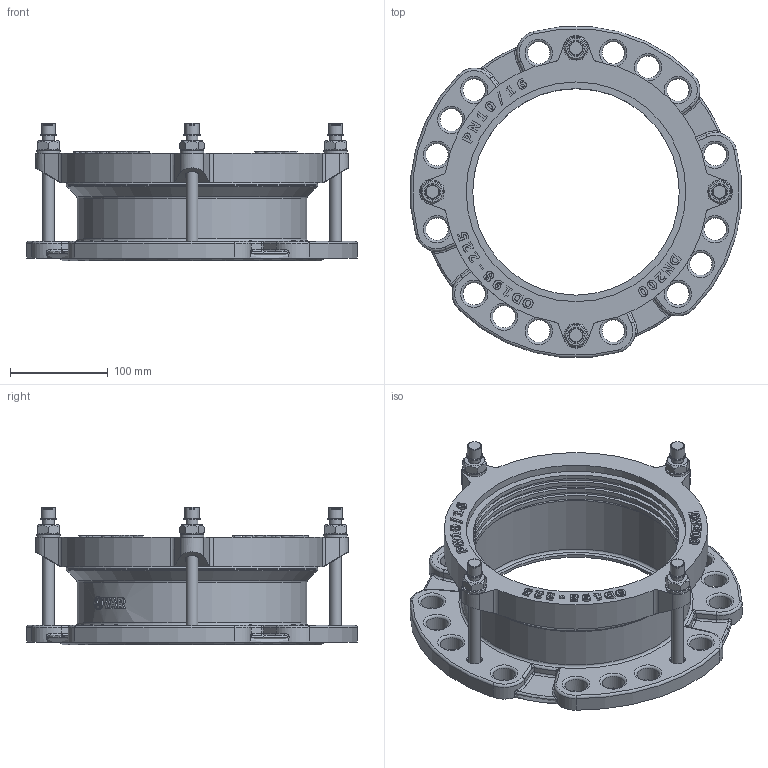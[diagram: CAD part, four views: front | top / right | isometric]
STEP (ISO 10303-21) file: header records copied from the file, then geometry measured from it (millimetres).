
FILE_DESCRIPTION(('STEP AP203'), '1');
FILE_NAME('Ôëàíöåâûé àäàïòåð', '', ('UNSPECIFIED'), ('UNSPECIFIED'), 'C3D Converter', 'C3D Toolkit', '');
FILE_SCHEMA(('CONFIG_CONTROL_DESIGN'));
Length unit declared in the file: millimetre
Assembly tree (19 placements, depth 2):
  (unnamed)
    (unnamed)
    (unnamed)  x4
    (unnamed)  x4
    (unnamed)  x4
    (unnamed)  x4
    (unnamed)
    (unnamed)
Bounding box: 338.71 x 338.71 x 141.2 mm (x, y, z)
Volume: 1764061 mm3; surface area: 471283.6 mm2
Topology: 19 solids, 19 shells, 1064 faces, 2705 edges, 1681 vertices
Faces by surface type: extrusion 360, plane 327, cylinder 210, torus 79, cone 32, bspline 32, sphere 24
Full cylindrical faces by diameter (mm): 12 x12, 13 x4, 13.478 x1, 14 x8, 14.4 x4, 16.8 x4, 23 x16, 24 x4, 211.5 x5, 218.25 x3, 225 x2, 230 x1, 235 x2, 257.5 x1, 260 x2
Entity records: 40927 total; most frequent: CARTESIAN_POINT 14773, ORIENTED_EDGE 4642, DIRECTION 3495, EDGE_CURVE 2321, VERTEX_POINT 1523, VECTOR 1329, B_SPLINE_CURVE_WITH_KNOTS 1175, EDGE_LOOP 1149
